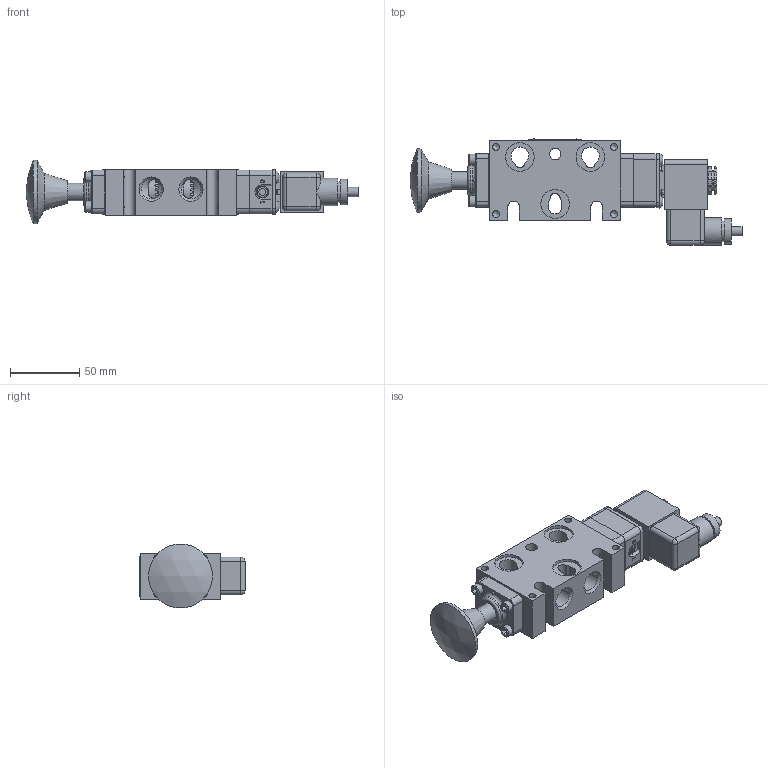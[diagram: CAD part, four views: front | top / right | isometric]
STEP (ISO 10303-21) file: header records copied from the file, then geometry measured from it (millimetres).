
FILE_DESCRIPTION(/* description */ (''),/* implementation_level */ '2;1');
FILE_NAME(/* name */ 'EBSAK3TCZ.stp',/* time_stamp */ '2026-08-10T08:09:39-04:00',/* author */ ('rmckenna'),/* organization */ (''),/* preprocessor_version */ 'ST-DEVELOPER v20.1',/* originating_system */ 'Autodesk Inventor 2026',/* authorisation */ '');
FILE_SCHEMA (('AUTOMOTIVE_DESIGN { 1 0 10303 214 3 1 1 }'));
Length unit declared in the file: centimetre
Products named in the file (1): Part17
Bounding box: 239.04 x 76.4 x 46.04 mm (x, y, z)
Volume: 252774.1 mm3; surface area: 86729.1 mm2
Topology: 2 solids, 32 shells, 1530 faces, 3651 edges, 2307 vertices
Faces by surface type: plane 607, cylinder 448, cone 261, torus 157, bspline 45, sphere 12
Full cylindrical faces by diameter (mm): 1.168 x10, 1.3 x1, 1.397 x1, 1.5 x1, 2.032 x8, 2.07 x2, 2.261 x2, 2.35 x4, 2.778 x2, 2.8 x1, 2.819 x1, 3 x4, 3.048 x2, 3.175 x1, 3.4 x1, 3.683 x10, 4.191 x2, 4.826 x8, 4.953 x1, 5.15 x4, 5.156 x12, 5.5 x1, 6.401 x2, 6.553 x1, 6.731 x1, 7.29 x1, 7.938 x4, 8 x2, 8.052 x1, 8.334 x1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
Entity records: 50078 total; most frequent: CARTESIAN_POINT 12513, DIRECTION 7733, ORIENTED_EDGE 7260, EDGE_CURVE 3630, AXIS2_PLACEMENT_3D 3046, VERTEX_POINT 2305, EDGE_LOOP 1753, LINE 1641
